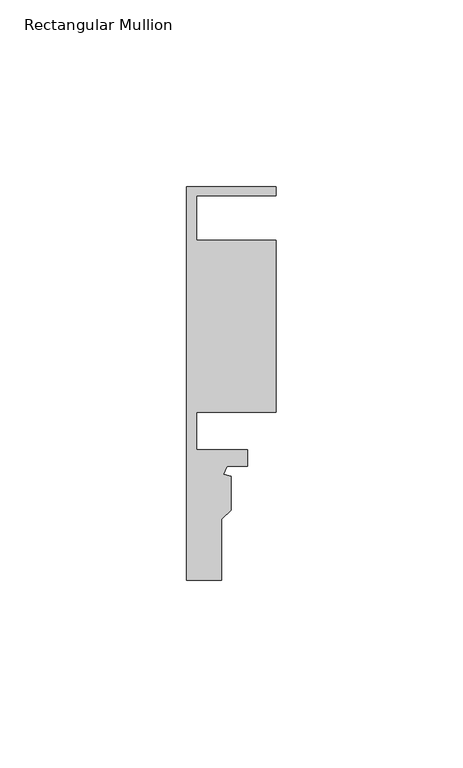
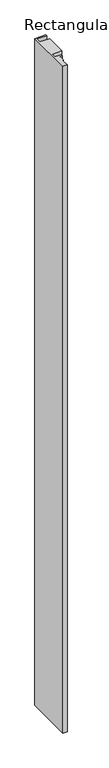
"""IFC4 building model written with IfcOpenShell, lengths in millimetres: member geometry, Rectangular Mullion : Danpal Left Mullion."""

import ifcopenshell
import ifcopenshell.guid

model = None  # the IFC model being written
_history = None  # IfcOwnerHistory: only IFC2X3 demands one
_inside = {}  # id of a spatial element -> (the spatial element, [elements in it])
_under = {}  # id of a project, library or spatial element -> (it, [spatial elements below it])
_declared = {}  # id of a project -> (the project, [libraries it declares])
_typed = {}  # id of a type object -> (the type object, [elements of that type])
_made_of = {}  # id of a material, layer set ... -> (it, [elements and type objects made of it])


def new_model(schema):
    """Start an empty IFC model of exactly this schema.

    Asked for "IFC4X3", IfcOpenShell would pick the latest addendum, in which some entities
    have other attributes; the version numbers below select the first issue.
    IFC2X3 requires an IfcOwnerHistory on every rooted entity: one is made here for all.
    """
    global model, _history
    if schema == "IFC4X3":
        model = ifcopenshell.file(schema_version=(4, 3, 0, 0))
    else:
        model = ifcopenshell.file(schema=schema)
    _inside.clear()
    _under.clear()
    _declared.clear()
    _typed.clear()
    _made_of.clear()
    _history = None
    if model.schema == "IFC2X3":
        org = make("IfcOrganization", Name="unknown")
        user = make(
            "IfcPersonAndOrganization",
            ThePerson=make("IfcPerson", FamilyName="unknown"),
            TheOrganization=org,
        )
        app = make(
            "IfcApplication",
            ApplicationDeveloper=org,
            Version="unknown",
            ApplicationFullName="unknown",
            ApplicationIdentifier="unknown",
        )
        _history = make(
            "IfcOwnerHistory",
            OwningUser=user,
            OwningApplication=app,
            ChangeAction="ADDED",
            CreationDate=0,
        )
    return model


def make(cls, **values):
    """One entity of the class cls with the attributes given. An attribute that is None is left unset."""
    return model.create_entity(
        cls, **{name: value for name, value in values.items() if value is not None}
    )


def rooted(cls, **values):
    """An entity with a GlobalId (a new one), such as an element, a storey or a relation."""
    return make(cls, GlobalId=ifcopenshell.guid.new(), OwnerHistory=_history, **values)


def si_unit(unit_type, name, prefix=None):
    """IfcSIUnit, for example si_unit("LENGTHUNIT", "METRE", prefix="MILLI")."""
    return make("IfcSIUnit", UnitType=unit_type, Prefix=prefix, Name=name)


def assignment(units):
    """IfcUnitAssignment: the units of a project."""
    return None if units is None else make("IfcUnitAssignment", Units=units)


def point(xyz):
    """IfcCartesianPoint."""
    return None if xyz is None else make("IfcCartesianPoint", Coordinates=xyz)


def direction(xyz):
    """IfcDirection."""
    return None if xyz is None else make("IfcDirection", DirectionRatios=xyz)


def frame(location, z_axis=None, x_axis=None):
    """IfcAxis2Placement3D, a coordinate frame: its origin and axes. An axis left out is left unset."""
    return make(
        "IfcAxis2Placement3D",
        Location=point(location),
        Axis=direction(z_axis),
        RefDirection=direction(x_axis),
    )


def origin():
    """The frame at (0, 0, 0) with its axes left unset."""
    return frame((0.0, 0.0, 0.0))


def place(relative_to, where):
    """IfcLocalPlacement: puts the frame where relative to a parent placement (None: the world)."""
    return make(
        "IfcLocalPlacement", PlacementRelTo=relative_to, RelativePlacement=where
    )


def context(
    kind, dimensions, precision=None, world=None, true_north=None, identifier=None
):
    """IfcGeometricRepresentationContext, for example the 3D "Model" context."""
    return make(
        "IfcGeometricRepresentationContext",
        ContextIdentifier=identifier,
        ContextType=kind,
        CoordinateSpaceDimension=dimensions,
        Precision=precision,
        WorldCoordinateSystem=world,
        TrueNorth=true_north,
    )


def project(units=None, contexts=None):
    """IfcProject with its units and contexts."""
    return rooted(
        "IfcProject",
        Name="project",
        RepresentationContexts=contexts,
        UnitsInContext=assignment(units),
    )


def spatial(cls, under=None, at=None, **own):
    """A site, building, storey or space (cls), placed at a placement, below another one or the project."""
    s = rooted(cls, ObjectPlacement=at, **own)
    if under is not None:
        _under.setdefault(under.id(), (under, []))[1].append(s)
    return s


def polyline(points):
    """IfcPolyline through the points."""
    return make("IfcPolyline", Points=[point(p) for p in points])


def outline(outer, holes=None, kind="AREA"):
    """IfcArbitraryClosedProfileDef: a profile drawn as a closed curve; with holes, ...WithVoids."""
    if holes is None:
        return make("IfcArbitraryClosedProfileDef", ProfileType=kind, OuterCurve=outer)
    return make(
        "IfcArbitraryProfileDefWithVoids",
        ProfileType=kind,
        OuterCurve=outer,
        InnerCurves=holes,
    )


def extrude(swept, where, along, depth):
    """IfcExtrudedAreaSolid: the profile swept, set in the frame where, extruded along a direction by depth."""
    return make(
        "IfcExtrudedAreaSolid",
        SweptArea=swept,
        Position=where,
        ExtrudedDirection=direction(along),
        Depth=depth,
    )


def shape(context_of_items, identifier, shape_type, items):
    """IfcShapeRepresentation: the items that make up one representation, for example the "Body"."""
    return make(
        "IfcShapeRepresentation",
        ContextOfItems=context_of_items,
        RepresentationIdentifier=identifier,
        RepresentationType=shape_type,
        Items=items,
    )


def source(mapping_origin, context_of_items, identifier, shape_type, items):
    """IfcRepresentationMap: a shape defined once, which mapped items show again and again."""
    return make(
        "IfcRepresentationMap",
        MappingOrigin=mapping_origin,
        MappedRepresentation=shape(context_of_items, identifier, shape_type, items),
    )


def transform(
    local_origin,
    x_axis=None,
    y_axis=None,
    z_axis=None,
    scale=None,
    scale2=None,
    scale3=None,
    uniform=True,
):
    """IfcCartesianTransformationOperator3D, or its non-uniform kind. x_axis, y_axis, z_axis: its Axis1, 2, 3."""
    if uniform:
        return make(
            "IfcCartesianTransformationOperator3D",
            Axis1=direction(x_axis),
            Axis2=direction(y_axis),
            LocalOrigin=point(local_origin),
            Scale=scale,
            Axis3=direction(z_axis),
        )
    return make(
        "IfcCartesianTransformationOperator3DnonUniform",
        Axis1=direction(x_axis),
        Axis2=direction(y_axis),
        LocalOrigin=point(local_origin),
        Scale=scale,
        Axis3=direction(z_axis),
        Scale2=scale2,
        Scale3=scale3,
    )


def mapped(mapping_source, mapping_target):
    """IfcMappedItem: shows the shape of a source again, moved by a transform."""
    return make(
        "IfcMappedItem", MappingSource=mapping_source, MappingTarget=mapping_target
    )


def made_of(thing, what):
    """Note that an element or type object is made of a material, layer set ...; save() writes the relation."""
    if what is not None:
        _made_of.setdefault(what.id(), (what, []))[1].append(thing)
    return thing


def element(
    cls,
    number,
    at=None,
    inside=None,
    cuts=None,
    type_object=None,
    material=None,
    context=None,
    identifier="Body",
    shape_type=None,
    held_by="IfcProductDefinitionShape",
    body=None,
    shapes=None,
    **own,
):
    """One element of the class cls, such as IfcWall. Its Tag is "e" and its number.

    at: its placement. inside: the storey or other place that contains it. cuts: it is an
    opening in that element (IfcRelVoidsElement). A single representation is given by context,
    identifier, shape_type and body (its items); several are given by shapes. held_by: the class
    of the entity that holds the representations. save() writes the other relations.
    """
    e = rooted(cls, Tag="e%d" % number, ObjectPlacement=at, **own)
    if body is not None:
        shapes = [shape(context, identifier, shape_type, body)]
    if shapes is not None:
        e.Representation = make(held_by, Representations=shapes)
    if inside is not None:
        _inside.setdefault(inside.id(), (inside, []))[1].append(e)
    if cuts is not None:
        rooted(
            "IfcRelVoidsElement", RelatingBuildingElement=cuts, RelatedOpeningElement=e
        )
    if type_object is not None:
        _typed.setdefault(type_object.id(), (type_object, []))[1].append(e)
    return made_of(e, material)


def aggregate(whole, parts):
    """IfcRelAggregates: a whole, such as a stair, and the parts it consists of."""
    return rooted("IfcRelAggregates", RelatingObject=whole, RelatedObjects=parts)


def save(model, path):
    """Write the relations noted so far, then the file.

    IfcRelAggregates (storeys below a building ...), IfcRelContainedInSpatialStructure (elements
    in a storey), IfcRelDefinesByType, IfcRelAssociatesMaterial and IfcRelDeclares: one each for
    every whole, place, type object, material and project.
    """
    for whole, parts in _under.values():
        aggregate(whole, parts)
    for where, things in _inside.values():
        rooted(
            "IfcRelContainedInSpatialStructure",
            RelatedElements=things,
            RelatingStructure=where,
        )
    for kind, things in _typed.values():
        rooted("IfcRelDefinesByType", RelatedObjects=things, RelatingType=kind)
    for what, things in _made_of.values():
        rooted("IfcRelAssociatesMaterial", RelatedObjects=things, RelatingMaterial=what)
    for by, libraries in _declared.values():
        rooted("IfcRelDeclares", RelatingContext=by, RelatedDefinitions=libraries)
    model.write(path)


def rectangular_mullion_b2fdbea4(model_context):
    return source(origin(), model_context, "Body", "SweptSolid", [
        extrude(outline(polyline([(-24.0238408, 82.259449), (0.0, 82.259449), (0.0, 79.9034272), (-21.3204821, 79.9034272), (-21.3204821, 67.9), (0.0, 67.9), (0.0, 21.9008514), (-21.3204821, 21.9008514), (-21.3204821, 11.7887231), (-7.6238408, 11.7887231), (-7.6238408, 7.4), (-13.2358923, 7.4), (-14.0868608, 5.293779), (-12.1738408, 4.7811869), (-12.1738408, -4.3242641), (-14.6238408, -6.7742641), (-14.6238408, -23.1), (-24.0238408, -23.1), (-24.0238408, 82.259449)])), frame((0.0, 0.0, -1533.3273158), z_axis=(0.0, 0.0, 1.0), x_axis=(1.0, 0.0, 0.0)), (0.0, 0.0, 1.0), 1533.3273158),
    ])


if __name__ == "__main__":
    model = new_model("IFC4")
    model_context = context("Model", 3, world=origin())
    ifc_project = project(units=[si_unit("LENGTHUNIT", "METRE", prefix="MILLI")], contexts=[model_context])
    site = spatial("IfcSite", under=ifc_project)
    building = spatial("IfcBuilding", under=site)
    placement = place(None, origin())
    rectangular_mullion_shape = rectangular_mullion_b2fdbea4(model_context)
    element("IfcMember", 1, ObjectType="Rectangular Mullion : Danpal Left Mullion", at=placement, inside=building, context=model_context, shape_type="MappedRepresentation", body=[
        mapped(rectangular_mullion_shape, transform((0.0, 0.0, 0.0), x_axis=(1.0, 0.0, 0.0), y_axis=(0.0, 1.0, 0.0), z_axis=(0.0, 0.0, 1.0))),
    ])
    save(model, "model.ifc")
